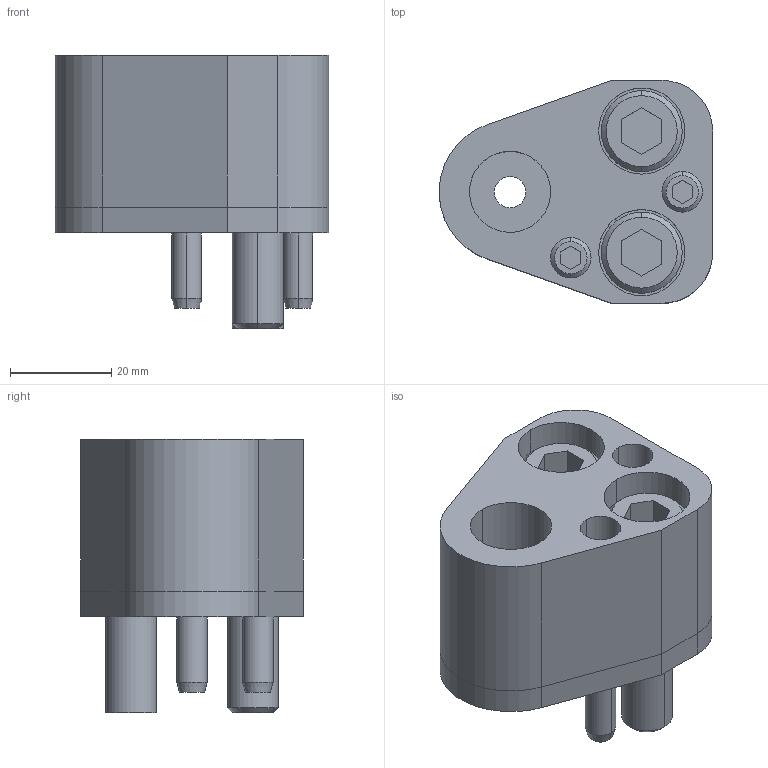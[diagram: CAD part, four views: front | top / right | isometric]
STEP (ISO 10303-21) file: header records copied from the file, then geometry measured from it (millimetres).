
FILE_DESCRIPTION(/* description */ (''),/* implementation_level */ '2;1');
FILE_NAME(/* name */ '3d_fp-ap16_02888_r00.stp',/* time_stamp */ '2011-01-10T14:15:36+09:00',/* author */ ('MISUMI'),/* organization */ (''),/* preprocessor_version */ 'ST-DEVELOPER v11',/* originating_system */ 'UGS - NX 5.0',/* authorisation */ '');
FILE_SCHEMA (('CONFIG_CONTROL_DESIGN'));
Length unit declared in the file: millimetre
Products named in the file (1): 3d_fp-ap16_02888_r00
Bounding box: 53.95 x 44 x 54 mm (x, y, z)
Volume: 56973.6 mm3; surface area: 24524.7 mm2
Topology: 8 solids, 8 shells, 153 faces, 342 edges, 220 vertices
Faces by surface type: plane 67, cylinder 62, cone 24
Entity records: 4424 total; most frequent: DIRECTION 794, CARTESIAN_POINT 764, ORIENTED_EDGE 684, EDGE_CURVE 342, AXIS2_PLACEMENT_3D 302, VERTEX_POINT 220, LINE 190, VECTOR 190
